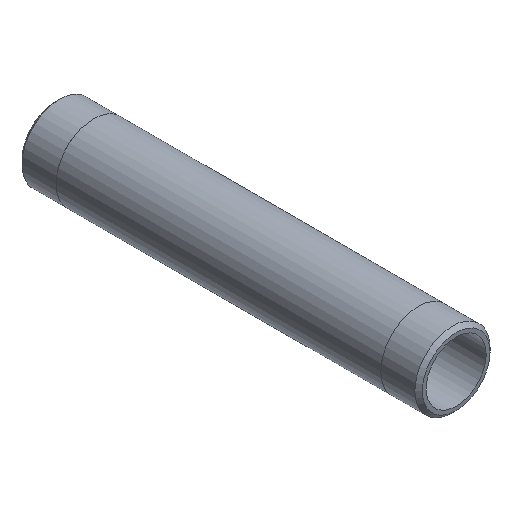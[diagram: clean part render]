
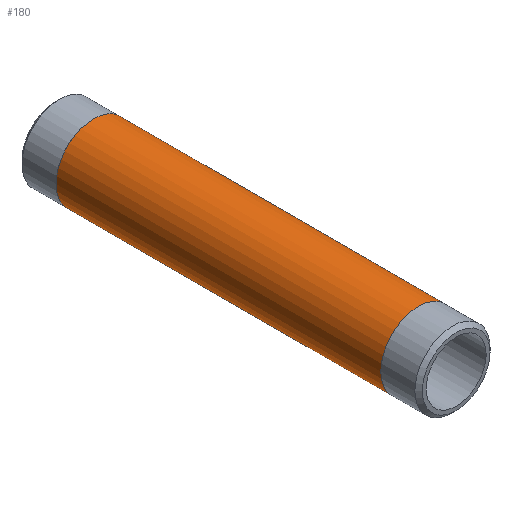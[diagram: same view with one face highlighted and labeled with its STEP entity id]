
A CAD part, isometric view. The second image highlights one B-rep face of the part: STEP entity #180.
In plain terms, the highlighted cylindrical face has radius 16.701 mm (diameter 33.401 mm), a full revolution.
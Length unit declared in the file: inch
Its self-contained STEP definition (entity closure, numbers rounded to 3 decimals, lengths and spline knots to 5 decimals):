
#25=CYLINDRICAL_SURFACE('',#220,0.6575);
#34=FACE_OUTER_BOUND('',#47,.T.);
#47=EDGE_LOOP('',(#155,#156,#157,#158,#159,#160));
#55=LINE('',#338,#61);
#61=VECTOR('',#283,0.6575);
#77=CIRCLE('',#218,0.6575);
#78=CIRCLE('',#219,0.6575);
#79=CIRCLE('',#221,0.6575);
#80=CIRCLE('',#222,0.6575);
#95=VERTEX_POINT('',#329);
#96=VERTEX_POINT('',#330);
#97=VERTEX_POINT('',#334);
#98=VERTEX_POINT('',#335);
#117=EDGE_CURVE('',#95,#96,#77,.T.);
#118=EDGE_CURVE('',#96,#95,#78,.T.);
#119=EDGE_CURVE('',#97,#98,#79,.T.);
#120=EDGE_CURVE('',#98,#97,#80,.T.);
#121=EDGE_CURVE('',#98,#96,#55,.T.);
#155=ORIENTED_EDGE('',*,*,#119,.F.);
#156=ORIENTED_EDGE('',*,*,#120,.F.);
#157=ORIENTED_EDGE('',*,*,#121,.T.);
#158=ORIENTED_EDGE('',*,*,#118,.T.);
#159=ORIENTED_EDGE('',*,*,#117,.T.);
#160=ORIENTED_EDGE('',*,*,#121,.F.);
#180=ADVANCED_FACE('',(#34),#25,.T.);
#218=AXIS2_PLACEMENT_3D('',#331,#273,#274);
#219=AXIS2_PLACEMENT_3D('',#332,#275,#276);
#220=AXIS2_PLACEMENT_3D('',#333,#277,#278);
#221=AXIS2_PLACEMENT_3D('',#336,#279,#280);
#222=AXIS2_PLACEMENT_3D('',#337,#281,#282);
#273=DIRECTION('center_axis',(0.,-1.,0.));
#274=DIRECTION('ref_axis',(1.,0.,0.));
#275=DIRECTION('center_axis',(0.,-1.,0.));
#276=DIRECTION('ref_axis',(1.,0.,0.));
#277=DIRECTION('center_axis',(0.,-1.,0.));
#278=DIRECTION('ref_axis',(0.,0.,-1.));
#279=DIRECTION('center_axis',(0.,-1.,0.));
#280=DIRECTION('ref_axis',(1.,0.,0.));
#281=DIRECTION('center_axis',(0.,-1.,0.));
#282=DIRECTION('ref_axis',(1.,0.,0.));
#283=DIRECTION('',(0.,1.,0.));
#329=CARTESIAN_POINT('',(0.,6.339,-0.6575));
#330=CARTESIAN_POINT('',(0.,6.339,0.6575));
#331=CARTESIAN_POINT('Origin',(0.,6.339,0.));
#332=CARTESIAN_POINT('Origin',(0.,6.339,0.));
#333=CARTESIAN_POINT('Origin',(0.,3.5,0.));
#334=CARTESIAN_POINT('',(0.,0.661,-0.6575));
#335=CARTESIAN_POINT('',(0.,0.661,0.6575));
#336=CARTESIAN_POINT('Origin',(0.,0.661,0.));
#337=CARTESIAN_POINT('Origin',(0.,0.661,0.));
#338=CARTESIAN_POINT('',(0.,3.5,0.6575));
